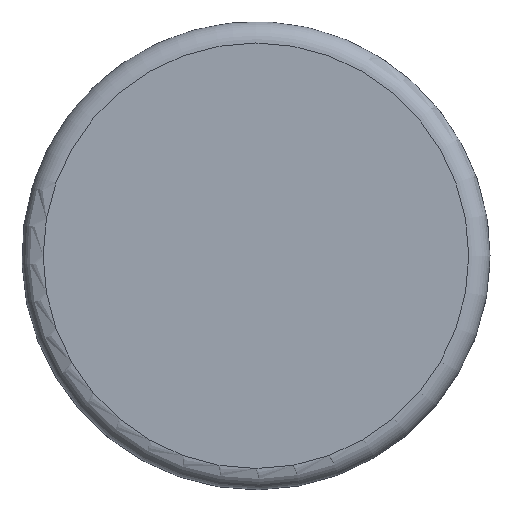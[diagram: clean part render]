
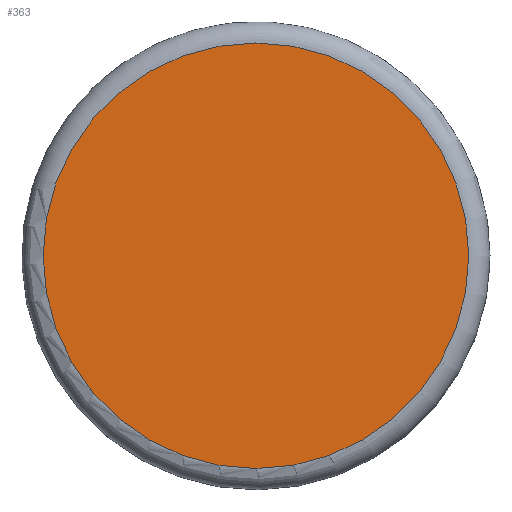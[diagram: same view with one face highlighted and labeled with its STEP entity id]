
A CAD part, top view. The second image highlights one B-rep face of the part: STEP entity #363.
In plain terms, the highlighted planar face has unit normal (0, 0, 1).
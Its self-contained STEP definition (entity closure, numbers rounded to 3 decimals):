
#340=CARTESIAN_POINT('',(10.0,0.,10.0));
#341=VERTEX_POINT('',#340);
#342=CARTESIAN_POINT('',(0.0,0.0,10.0));
#343=DIRECTION('',(0.0,0.0,-1.0));
#344=DIRECTION('',(-1.0,0.0,0.0));
#345=AXIS2_PLACEMENT_3D('',#342,#343,#344);
#346=CIRCLE('',#345,10.0);
#347=EDGE_CURVE('',#341,#341,#346,.T.);
#355=CARTESIAN_POINT('',(0.0,0.0,10.0));
#356=DIRECTION('',(0.0,0.0,-1.0));
#357=DIRECTION('',(-1.0,0.0,0.0));
#358=AXIS2_PLACEMENT_3D('',#355,#356,#357);
#359=PLANE('',#358);
#360=ORIENTED_EDGE('',*,*,#347,.F.);
#361=EDGE_LOOP('',(#360));
#362=FACE_OUTER_BOUND('',#361,.T.);
#363=ADVANCED_FACE('',(#362),#359,.F.);
